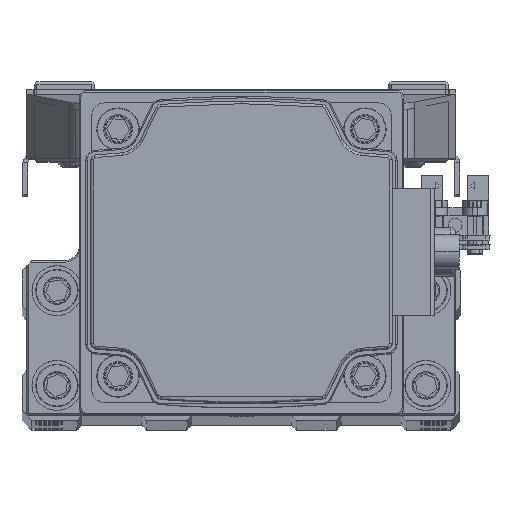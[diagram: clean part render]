
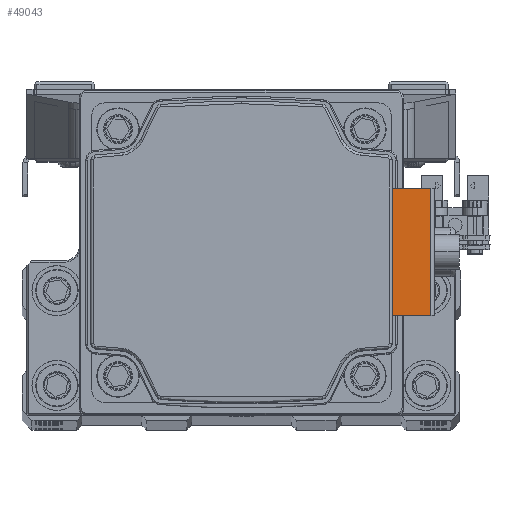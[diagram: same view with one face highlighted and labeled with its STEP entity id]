
A CAD part, top view. The second image highlights one B-rep face of the part: STEP entity #49043.
In plain terms, the highlighted planar face has unit normal (0, 0, 1) as drawn and (0, 0, -1) by its records, which use the part's own axes.
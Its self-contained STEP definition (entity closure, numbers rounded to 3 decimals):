
#1433 = VECTOR ( 'NONE', #26594, 1000. ) ;
#1962 = CARTESIAN_POINT ( 'NONE',  ( 12.75, 30.2, -88.696 ) ) ;
#3144 = CARTESIAN_POINT ( 'NONE',  ( 18.438, 30.2, -88.696 ) ) ;
#5197 = CARTESIAN_POINT ( 'NONE',  ( -12.75, 37.9, -88.696 ) ) ;
#5957 = CARTESIAN_POINT ( 'NONE',  ( -12.75, 37.9, -88.696 ) ) ;
#7370 = ORIENTED_EDGE ( 'NONE', *, *, #9752, .F. ) ;
#8618 = DIRECTION ( 'NONE',  ( 0., 0., -1. ) ) ;
#9184 = LINE ( 'NONE', #24758, #29990 ) ;
#9605 = VERTEX_POINT ( 'NONE', #31669 ) ;
#9752 = EDGE_CURVE ( 'NONE', #41021, #9605, #9184, .T. ) ;
#11000 = CARTESIAN_POINT ( 'NONE',  ( 0., 37.9, -88.696 ) ) ;
#12440 = FACE_OUTER_BOUND ( 'NONE', #36010, .T. ) ;
#13411 = VECTOR ( 'NONE', #21545, 1000. ) ;
#16097 = EDGE_CURVE ( 'NONE', #27039, #30705, #40889, .T. ) ;
#16206 = EDGE_CURVE ( 'NONE', #27039, #41021, #38084, .T. ) ;
#17826 = AXIS2_PLACEMENT_3D ( 'NONE', #43555, #8618, #24204 ) ;
#18730 = DIRECTION ( 'NONE',  ( 1., 0., 0. ) ) ;
#18987 = ORIENTED_EDGE ( 'NONE', *, *, #48325, .T. ) ;
#19549 = ORIENTED_EDGE ( 'NONE', *, *, #16097, .T. ) ;
#21545 = DIRECTION ( 'NONE',  ( 0., 1., 0. ) ) ;
#24204 = DIRECTION ( 'NONE',  ( -1., 0., 0. ) ) ;
#24758 = CARTESIAN_POINT ( 'NONE',  ( 12.75, 33.991, -88.696 ) ) ;
#26594 = DIRECTION ( 'NONE',  ( 1., 0., 0. ) ) ;
#27039 = VERTEX_POINT ( 'NONE', #37684 ) ;
#28014 = PLANE ( 'NONE',  #17826 ) ;
#29990 = VECTOR ( 'NONE', #40283, 1000. ) ;
#30705 = VERTEX_POINT ( 'NONE', #5197 ) ;
#31669 = CARTESIAN_POINT ( 'NONE',  ( 12.75, 37.9, -88.696 ) ) ;
#36010 = EDGE_LOOP ( 'NONE', ( #19549, #18987, #7370, #44079 ) ) ;
#37051 = VECTOR ( 'NONE', #18730, 1000. ) ;
#37684 = CARTESIAN_POINT ( 'NONE',  ( -12.75, 30.2, -88.696 ) ) ;
#38084 = LINE ( 'NONE', #3144, #37051 ) ;
#40283 = DIRECTION ( 'NONE',  ( 0., 1., 0. ) ) ;
#40889 = LINE ( 'NONE', #5957, #13411 ) ;
#41021 = VERTEX_POINT ( 'NONE', #1962 ) ;
#43555 = CARTESIAN_POINT ( 'NONE',  ( 0., 37.9, -88.696 ) ) ;
#44079 = ORIENTED_EDGE ( 'NONE', *, *, #16206, .F. ) ;
#45936 = LINE ( 'NONE', #11000, #1433 ) ;
#48325 = EDGE_CURVE ( 'NONE', #30705, #9605, #45936, .T. ) ;
#49043 = ADVANCED_FACE ( 'NONE', ( #12440 ), #28014, .T. ) ;
